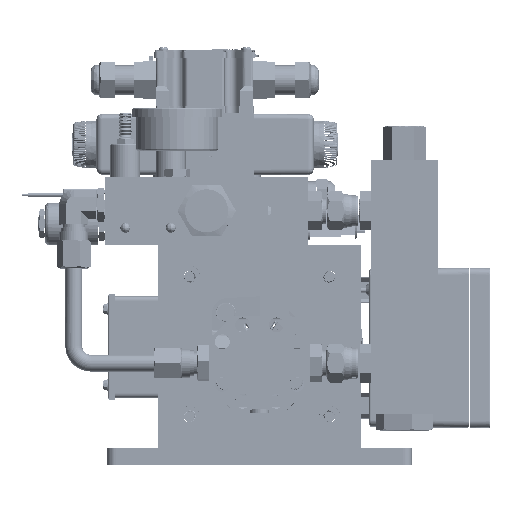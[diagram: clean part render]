
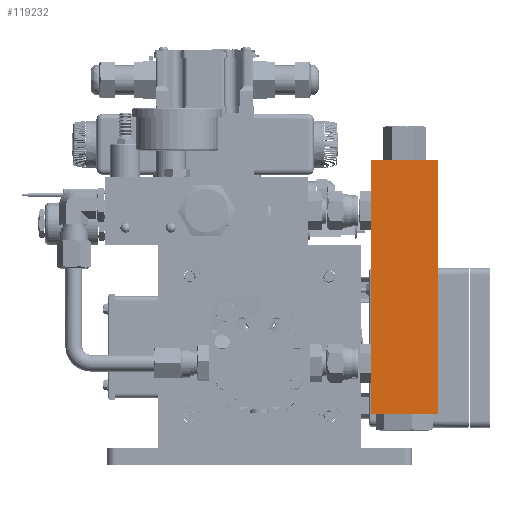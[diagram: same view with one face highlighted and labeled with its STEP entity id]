
A CAD part, top view. The second image highlights one B-rep face of the part: STEP entity #119232.
In plain terms, the highlighted planar face has unit normal (0, 0, 1).
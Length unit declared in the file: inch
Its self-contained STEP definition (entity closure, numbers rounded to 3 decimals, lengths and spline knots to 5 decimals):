
#628 = VECTOR ( 'NONE', #289566, 39.37008 ) ;
#5098 = EDGE_CURVE ( 'NONE', #103913, #201890, #228730, .T. ) ;
#18032 = CARTESIAN_POINT ( 'NONE',  ( 3.28321, -2., 7.898 ) ) ;
#21639 = EDGE_CURVE ( 'NONE', #93469, #103913, #143130, .T. ) ;
#26302 = DIRECTION ( 'NONE',  ( 0., -1., 0. ) ) ;
#30180 = FACE_OUTER_BOUND ( 'NONE', #260211, .T. ) ;
#30918 = CARTESIAN_POINT ( 'NONE',  ( 5.28321, -2., 7.898 ) ) ;
#33177 = DIRECTION ( 'NONE',  ( -1., 0., 0. ) ) ;
#35771 = CARTESIAN_POINT ( 'NONE',  ( 5.28321, 5.5, 7.898 ) ) ;
#40754 = VERTEX_POINT ( 'NONE', #35771 ) ;
#64685 = VECTOR ( 'NONE', #26302, 39.37008 ) ;
#69509 = DIRECTION ( 'NONE',  ( 0., -1., 0. ) ) ;
#91248 = CARTESIAN_POINT ( 'NONE',  ( 3.28321, -2., 7.898 ) ) ;
#93469 = VERTEX_POINT ( 'NONE', #239727 ) ;
#93606 = EDGE_CURVE ( 'NONE', #93469, #40754, #97788, .T. ) ;
#97788 = LINE ( 'NONE', #191549, #628 ) ;
#103913 = VERTEX_POINT ( 'NONE', #91248 ) ;
#105971 = VECTOR ( 'NONE', #69509, 39.37008 ) ;
#111803 = DIRECTION ( 'NONE',  ( 1., 0., 0. ) ) ;
#119232 = ADVANCED_FACE ( 'NONE', ( #30180 ), #123956, .F. ) ;
#123956 = PLANE ( 'NONE',  #271173 ) ;
#131251 = ORIENTED_EDGE ( 'NONE', *, *, #21639, .T. ) ;
#143130 = LINE ( 'NONE', #237058, #64685 ) ;
#147792 = EDGE_CURVE ( 'NONE', #40754, #201890, #186310, .T. ) ;
#150025 = CARTESIAN_POINT ( 'NONE',  ( 3.28321, 5.5, 7.898 ) ) ;
#176033 = ORIENTED_EDGE ( 'NONE', *, *, #93606, .F. ) ;
#186310 = LINE ( 'NONE', #280270, #105971 ) ;
#191549 = CARTESIAN_POINT ( 'NONE',  ( 3.28321, 5.5, 7.898 ) ) ;
#195222 = ORIENTED_EDGE ( 'NONE', *, *, #5098, .T. ) ;
#199065 = ORIENTED_EDGE ( 'NONE', *, *, #147792, .F. ) ;
#201890 = VERTEX_POINT ( 'NONE', #30918 ) ;
#228730 = LINE ( 'NONE', #18032, #298633 ) ;
#237058 = CARTESIAN_POINT ( 'NONE',  ( 3.28321, 5.5, 7.898 ) ) ;
#239727 = CARTESIAN_POINT ( 'NONE',  ( 3.28321, 5.5, 7.898 ) ) ;
#243941 = DIRECTION ( 'NONE',  ( 0., 0., -1. ) ) ;
#260211 = EDGE_LOOP ( 'NONE', ( #195222, #199065, #176033, #131251 ) ) ;
#271173 = AXIS2_PLACEMENT_3D ( 'NONE', #150025, #243941, #33177 ) ;
#280270 = CARTESIAN_POINT ( 'NONE',  ( 5.28321, 5.5, 7.898 ) ) ;
#289566 = DIRECTION ( 'NONE',  ( 1., 0., 0. ) ) ;
#298633 = VECTOR ( 'NONE', #111803, 39.37008 ) ;
